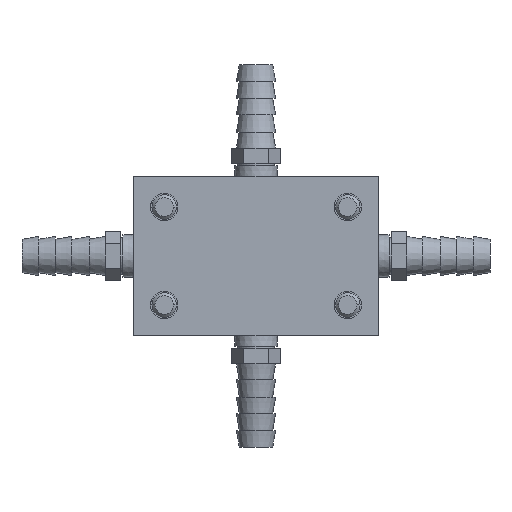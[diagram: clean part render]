
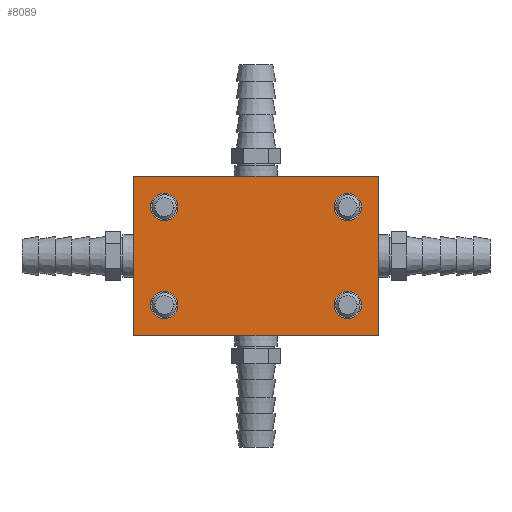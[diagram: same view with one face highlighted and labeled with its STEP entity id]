
A CAD part, left-side view. The second image highlights one B-rep face of the part: STEP entity #8089.
In plain terms, the highlighted planar face has unit normal (-1, 0, 0).
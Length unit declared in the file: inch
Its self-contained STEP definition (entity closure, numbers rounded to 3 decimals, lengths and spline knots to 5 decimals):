
#7827=CARTESIAN_POINT('',(-3.75,-0.9375,-0.5));
#7828=DIRECTION('',(1.,0.,0.));
#7829=DIRECTION('',(0.,-1.,0.));
#7830=AXIS2_PLACEMENT_3D('',#7827,#7828,#7829);
#7832=CARTESIAN_POINT('',(-3.75,-0.9375,-0.5));
#7833=DIRECTION('',(1.,0.,0.));
#7834=DIRECTION('',(0.,1.,0.));
#7835=AXIS2_PLACEMENT_3D('',#7832,#7833,#7834);
#7837=CARTESIAN_POINT('',(-3.75,0.9375,-0.5));
#7838=DIRECTION('',(1.,0.,0.));
#7839=DIRECTION('',(0.,-1.,0.));
#7840=AXIS2_PLACEMENT_3D('',#7837,#7838,#7839);
#7842=CARTESIAN_POINT('',(-3.75,0.9375,-0.5));
#7843=DIRECTION('',(1.,0.,0.));
#7844=DIRECTION('',(0.,1.,0.));
#7845=AXIS2_PLACEMENT_3D('',#7842,#7843,#7844);
#7847=CARTESIAN_POINT('',(-3.75,0.9375,0.5));
#7848=DIRECTION('',(1.,0.,0.));
#7849=DIRECTION('',(0.,-1.,0.));
#7850=AXIS2_PLACEMENT_3D('',#7847,#7848,#7849);
#7852=CARTESIAN_POINT('',(-3.75,0.9375,0.5));
#7853=DIRECTION('',(1.,0.,0.));
#7854=DIRECTION('',(0.,1.,0.));
#7855=AXIS2_PLACEMENT_3D('',#7852,#7853,#7854);
#7857=CARTESIAN_POINT('',(-3.75,-0.9375,0.5));
#7858=DIRECTION('',(1.,0.,0.));
#7859=DIRECTION('',(0.,-1.,0.));
#7860=AXIS2_PLACEMENT_3D('',#7857,#7858,#7859);
#7862=CARTESIAN_POINT('',(-3.75,-0.9375,0.5));
#7863=DIRECTION('',(1.,0.,0.));
#7864=DIRECTION('',(0.,1.,0.));
#7865=AXIS2_PLACEMENT_3D('',#7862,#7863,#7864);
#7959=DIRECTION('',(0.,0.,-1.));
#7960=VECTOR('',#7959,1.625);
#7961=CARTESIAN_POINT('',(-3.75,-1.25,0.8125));
#7962=LINE('',#7961,#7960);
#7967=DIRECTION('',(0.,1.,0.));
#7968=VECTOR('',#7967,2.5);
#7969=CARTESIAN_POINT('',(-3.75,-1.25,-0.8125));
#7970=LINE('',#7969,#7968);
#7971=DIRECTION('',(0.,0.,1.));
#7972=VECTOR('',#7971,1.625);
#7973=CARTESIAN_POINT('',(-3.75,1.25,-0.8125));
#7974=LINE('',#7973,#7972);
#7979=DIRECTION('',(0.,-1.,0.));
#7980=VECTOR('',#7979,2.5);
#7981=CARTESIAN_POINT('',(-3.75,1.25,0.8125));
#7982=LINE('',#7981,#7980);
#7991=CARTESIAN_POINT('',(-3.75,-1.25,-0.8125));
#7992=CARTESIAN_POINT('',(-3.75,1.25,-0.8125));
#7993=VERTEX_POINT('',#7991);
#7994=VERTEX_POINT('',#7992);
#7997=CARTESIAN_POINT('',(-3.75,-1.25,0.8125));
#7998=VERTEX_POINT('',#7997);
#7999=CARTESIAN_POINT('',(-3.75,1.25,0.8125));
#8000=VERTEX_POINT('',#7999);
#8003=CARTESIAN_POINT('',(-3.75,1.07813,0.5));
#8005=VERTEX_POINT('',#8003);
#8007=CARTESIAN_POINT('',(-3.75,0.79688,0.5));
#8009=VERTEX_POINT('',#8007);
#8011=CARTESIAN_POINT('',(-3.75,-0.79688,0.5));
#8013=VERTEX_POINT('',#8011);
#8015=CARTESIAN_POINT('',(-3.75,-1.07813,0.5));
#8017=VERTEX_POINT('',#8015);
#8019=CARTESIAN_POINT('',(-3.75,1.07813,-0.5));
#8021=VERTEX_POINT('',#8019);
#8023=CARTESIAN_POINT('',(-3.75,0.79688,-0.5));
#8025=VERTEX_POINT('',#8023);
#8027=CARTESIAN_POINT('',(-3.75,-0.79688,-0.5));
#8029=VERTEX_POINT('',#8027);
#8031=CARTESIAN_POINT('',(-3.75,-1.07813,-0.5));
#8033=VERTEX_POINT('',#8031);
#8051=CARTESIAN_POINT('',(-3.75,0.,0.));
#8052=DIRECTION('',(1.,0.,0.));
#8053=DIRECTION('',(0.,-1.,0.));
#8054=AXIS2_PLACEMENT_3D('',#8051,#8052,#8053);
#8055=PLANE('',#8054);
#8057=ORIENTED_EDGE('',*,*,#8056,.T.);
#8059=ORIENTED_EDGE('',*,*,#8058,.T.);
#8061=ORIENTED_EDGE('',*,*,#8060,.T.);
#8063=ORIENTED_EDGE('',*,*,#8062,.T.);
#8064=EDGE_LOOP('',(#8057,#8059,#8061,#8063));
#8065=FACE_OUTER_BOUND('',#8064,.F.);
#8067=ORIENTED_EDGE('',*,*,#8066,.F.);
#8069=ORIENTED_EDGE('',*,*,#8068,.F.);
#8070=EDGE_LOOP('',(#8067,#8069));
#8071=FACE_BOUND('',#8070,.F.);
#8072=ORIENTED_EDGE('',*,*,#8040,.F.);
#8074=ORIENTED_EDGE('',*,*,#8073,.F.);
#8075=EDGE_LOOP('',(#8072,#8074));
#8076=FACE_BOUND('',#8075,.F.);
#8078=ORIENTED_EDGE('',*,*,#8077,.F.);
#8080=ORIENTED_EDGE('',*,*,#8079,.F.);
#8081=EDGE_LOOP('',(#8078,#8080));
#8082=FACE_BOUND('',#8081,.F.);
#8084=ORIENTED_EDGE('',*,*,#8083,.F.);
#8086=ORIENTED_EDGE('',*,*,#8085,.F.);
#8087=EDGE_LOOP('',(#8084,#8086));
#8088=FACE_BOUND('',#8087,.F.);
#7831=CIRCLE('',#7830,0.14063);
#7836=CIRCLE('',#7835,0.14063);
#7841=CIRCLE('',#7840,0.14063);
#7846=CIRCLE('',#7845,0.14063);
#7851=CIRCLE('',#7850,0.14063);
#7856=CIRCLE('',#7855,0.14063);
#7861=CIRCLE('',#7860,0.14063);
#7866=CIRCLE('',#7865,0.14063);
#8040=EDGE_CURVE('',#8009,#8005,#7851,.T.);
#8056=EDGE_CURVE('',#7993,#7994,#7970,.T.);
#8058=EDGE_CURVE('',#7994,#8000,#7974,.T.);
#8060=EDGE_CURVE('',#8000,#7998,#7982,.T.);
#8062=EDGE_CURVE('',#7998,#7993,#7962,.T.);
#8066=EDGE_CURVE('',#8025,#8021,#7841,.T.);
#8068=EDGE_CURVE('',#8021,#8025,#7846,.T.);
#8073=EDGE_CURVE('',#8005,#8009,#7856,.T.);
#8077=EDGE_CURVE('',#8017,#8013,#7861,.T.);
#8079=EDGE_CURVE('',#8013,#8017,#7866,.T.);
#8083=EDGE_CURVE('',#8033,#8029,#7831,.T.);
#8085=EDGE_CURVE('',#8029,#8033,#7836,.T.);
#8089=ADVANCED_FACE('',(#8065,#8071,#8076,#8082,#8088),#8055,.F.);
